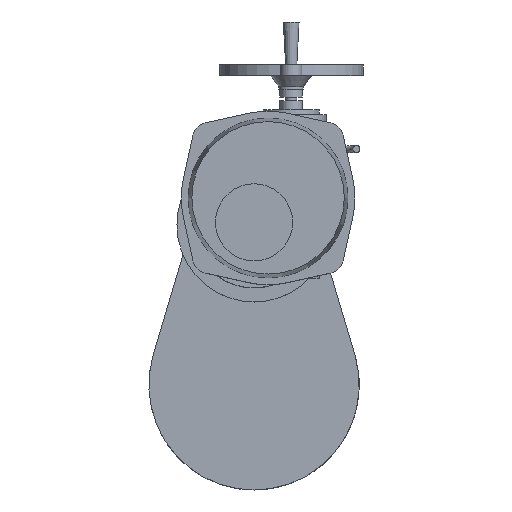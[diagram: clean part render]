
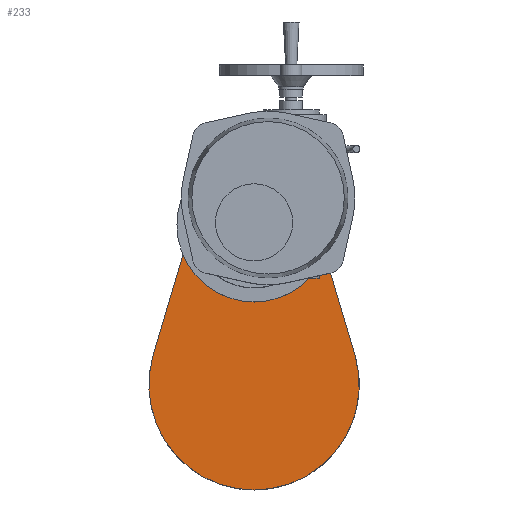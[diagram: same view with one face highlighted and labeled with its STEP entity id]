
A CAD part, top view. The second image highlights one B-rep face of the part: STEP entity #233.
In plain terms, the highlighted planar face has unit normal (0, 0, 1).
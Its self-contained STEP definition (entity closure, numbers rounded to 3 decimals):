
#233=ADVANCED_FACE('',(#1325),#1327,.F.);
#1325=FACE_BOUND('',#1326,.T.);
#1326=EDGE_LOOP('',(#2145,#2146,#2147,#2148,#2149));
#1327=PLANE('',#1328);
#1328=AXIS2_PLACEMENT_3D('',#1329,#1330,#1331);
#1329=CARTESIAN_POINT('',(0.,0.,-224.));
#1330=DIRECTION('',(0.,0.,-1.));
#1331=DIRECTION('',(0.,1.,0.));
#2145=ORIENTED_EDGE('',*,*,#2552,.T.);
#2146=ORIENTED_EDGE('',*,*,#2553,.T.);
#2147=ORIENTED_EDGE('',*,*,#2554,.F.);
#2148=ORIENTED_EDGE('',*,*,#2532,.F.);
#2149=ORIENTED_EDGE('',*,*,#2555,.F.);
#2532=EDGE_CURVE('',#2764,#2765,#2766,.T.);
#2552=EDGE_CURVE('',#2804,#2805,#2806,.F.);
#2553=EDGE_CURVE('',#2805,#2807,#2808,.F.);
#2554=EDGE_CURVE('',#2765,#2807,#2809,.T.);
#2555=EDGE_CURVE('',#2804,#2764,#2810,.T.);
#2764=VERTEX_POINT('',#3198);
#2765=VERTEX_POINT('',#3199);
#2766=CIRCLE('',#3200,150.);
#2804=VERTEX_POINT('',#3296);
#2805=VERTEX_POINT('',#3297);
#2806=CIRCLE('',#3298,85.);
#2807=VERTEX_POINT('',#3302);
#2808=CIRCLE('',#3303,85.);
#2809=LINE('',#3307,#3308);
#2810=LINE('',#3310,#3311);
#3198=CARTESIAN_POINT('',(123.775,-223.237,-224.));
#3199=CARTESIAN_POINT('',(-163.775,-223.237,-224.));
#3200=AXIS2_PLACEMENT_3D('',#3201,#3202,#3203);
#3201=CARTESIAN_POINT('',(-20.,-266.,-224.));
#3202=DIRECTION('',(0.,0.,-1.));
#3203=DIRECTION('',(0.959,0.285,0.));
#3296=CARTESIAN_POINT('',(61.473,-13.768,-224.));
#3297=CARTESIAN_POINT('',(-20.,-123.,-224.));
#3298=AXIS2_PLACEMENT_3D('',#3299,#3300,#3301);
#3299=CARTESIAN_POINT('',(-20.,-38.,-224.));
#3300=DIRECTION('',(0.,0.,1.));
#3301=DIRECTION('',(0.,-1.,0.));
#3302=CARTESIAN_POINT('',(-101.473,-13.768,-224.));
#3303=AXIS2_PLACEMENT_3D('',#3304,#3305,#3306);
#3304=CARTESIAN_POINT('',(-20.,-38.,-224.));
#3305=DIRECTION('',(0.,0.,1.));
#3306=DIRECTION('',(-0.959,0.285,0.));
#3307=CARTESIAN_POINT('',(-163.775,-223.237,-224.));
#3308=VECTOR('',#3309,1.);
#3309=DIRECTION('',(0.285,0.959,0.));
#3310=CARTESIAN_POINT('',(61.473,-13.768,-224.));
#3311=VECTOR('',#3312,1.);
#3312=DIRECTION('',(0.285,-0.959,0.));
